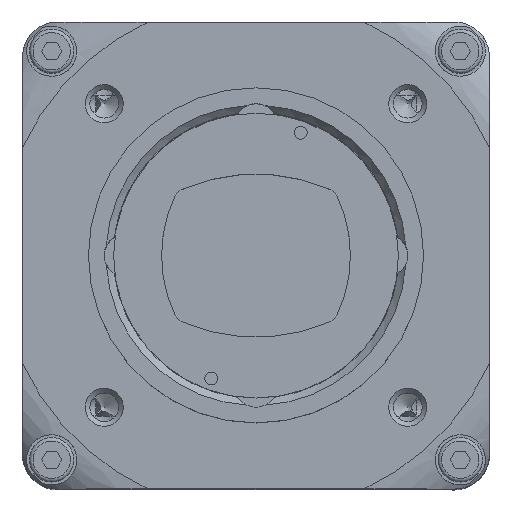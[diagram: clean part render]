
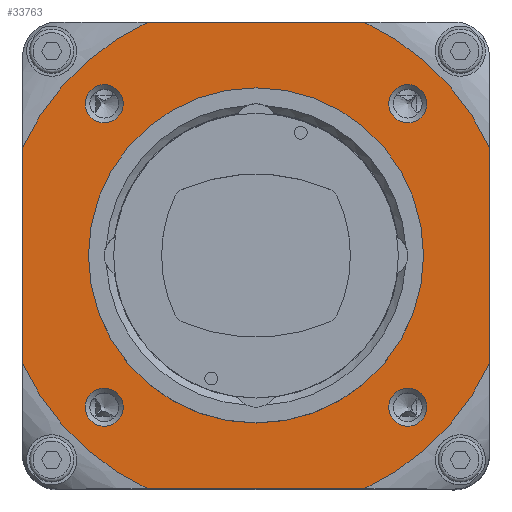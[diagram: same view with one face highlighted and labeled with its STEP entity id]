
A CAD part, top view. The second image highlights one B-rep face of the part: STEP entity #33763.
In plain terms, the highlighted planar face has unit normal (0, 0, 1).
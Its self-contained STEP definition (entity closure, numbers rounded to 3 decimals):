
#895=LINE('',#46804,#2441);
#899=LINE('',#46829,#2445);
#903=LINE('',#46854,#2449);
#907=LINE('',#46879,#2453);
#2441=VECTOR('',#39475,1000.);
#2445=VECTOR('',#39485,1000.);
#2449=VECTOR('',#39495,1000.);
#2453=VECTOR('',#39505,1000.);
#5727=ORIENTED_EDGE('',*,*,#11518,.T.);
#5728=ORIENTED_EDGE('',*,*,#11519,.T.);
#5729=ORIENTED_EDGE('',*,*,#11520,.T.);
#5730=ORIENTED_EDGE('',*,*,#11521,.T.);
#5731=ORIENTED_EDGE('',*,*,#11425,.T.);
#5732=ORIENTED_EDGE('',*,*,#11452,.F.);
#5733=ORIENTED_EDGE('',*,*,#11522,.T.);
#5734=ORIENTED_EDGE('',*,*,#11444,.F.);
#5735=ORIENTED_EDGE('',*,*,#11523,.T.);
#5736=ORIENTED_EDGE('',*,*,#11436,.F.);
#5737=ORIENTED_EDGE('',*,*,#11524,.T.);
#5738=ORIENTED_EDGE('',*,*,#11428,.F.);
#5739=ORIENTED_EDGE('',*,*,#11525,.T.);
#11425=EDGE_CURVE('',#14519,#14519,#16670,.T.);
#11428=EDGE_CURVE('',#14522,#14523,#895,.T.);
#11436=EDGE_CURVE('',#14530,#14531,#899,.T.);
#11444=EDGE_CURVE('',#14538,#14539,#903,.T.);
#11452=EDGE_CURVE('',#14546,#14547,#907,.T.);
#11518=EDGE_CURVE('',#14596,#14596,#16719,.T.);
#11519=EDGE_CURVE('',#14597,#14597,#16720,.T.);
#11520=EDGE_CURVE('',#14598,#14598,#16721,.T.);
#11521=EDGE_CURVE('',#14599,#14599,#16722,.T.);
#11522=EDGE_CURVE('',#14546,#14539,#16723,.T.);
#11523=EDGE_CURVE('',#14538,#14531,#16724,.T.);
#11524=EDGE_CURVE('',#14530,#14523,#16725,.T.);
#11525=EDGE_CURVE('',#14522,#14547,#16726,.T.);
#14519=VERTEX_POINT('',#46798);
#14522=VERTEX_POINT('',#46805);
#14523=VERTEX_POINT('',#46806);
#14530=VERTEX_POINT('',#46830);
#14531=VERTEX_POINT('',#46831);
#14538=VERTEX_POINT('',#46855);
#14539=VERTEX_POINT('',#46856);
#14546=VERTEX_POINT('',#46880);
#14547=VERTEX_POINT('',#46881);
#14596=VERTEX_POINT('',#47088);
#14597=VERTEX_POINT('',#47090);
#14598=VERTEX_POINT('',#47092);
#14599=VERTEX_POINT('',#47094);
#16670=CIRCLE('',#35637,14.35);
#16719=CIRCLE('',#35718,1.63);
#16720=CIRCLE('',#35719,1.63);
#16721=CIRCLE('',#35720,1.63);
#16722=CIRCLE('',#35721,1.63);
#16723=CIRCLE('',#35722,22.031);
#16724=CIRCLE('',#35723,22.031);
#16725=CIRCLE('',#35724,22.031);
#16726=CIRCLE('',#35725,22.031);
#18288=EDGE_LOOP('',(#5727));
#18289=EDGE_LOOP('',(#5728));
#18290=EDGE_LOOP('',(#5729));
#18291=EDGE_LOOP('',(#5730));
#18292=EDGE_LOOP('',(#5731));
#18293=EDGE_LOOP('',(#5732,#5733,#5734,#5735,#5736,#5737,#5738,#5739));
#20470=FACE_BOUND('',#18288,.T.);
#20471=FACE_BOUND('',#18289,.T.);
#20472=FACE_BOUND('',#18290,.T.);
#20473=FACE_BOUND('',#18291,.T.);
#20474=FACE_BOUND('',#18292,.T.);
#20475=FACE_BOUND('',#18293,.T.);
#22178=PLANE('',#35717);
#33763=ADVANCED_FACE('',(#20470,#20471,#20472,#20473,#20474,#20475),#22178,
 .F.);
#35637=AXIS2_PLACEMENT_3D('',#46797,#39467,#39468);
#35717=AXIS2_PLACEMENT_3D('',#47086,#39647,#39648);
#35718=AXIS2_PLACEMENT_3D('',#47087,#39649,#39650);
#35719=AXIS2_PLACEMENT_3D('',#47089,#39651,#39652);
#35720=AXIS2_PLACEMENT_3D('',#47091,#39653,#39654);
#35721=AXIS2_PLACEMENT_3D('',#47093,#39655,#39656);
#35722=AXIS2_PLACEMENT_3D('',#47095,#39657,#39658);
#35723=AXIS2_PLACEMENT_3D('',#47096,#39659,#39660);
#35724=AXIS2_PLACEMENT_3D('',#47097,#39661,#39662);
#35725=AXIS2_PLACEMENT_3D('',#47098,#39663,#39664);
#39467=DIRECTION('',(0.,0.,-1.));
#39468=DIRECTION('',(1.,0.,0.));
#39475=DIRECTION('',(0.,-1.,0.));
#39485=DIRECTION('',(-1.,0.,0.));
#39495=DIRECTION('',(0.,1.,0.));
#39505=DIRECTION('',(1.,0.,0.));
#39647=DIRECTION('',(0.,0.,-1.));
#39648=DIRECTION('',(-1.,0.,0.));
#39649=DIRECTION('',(0.,0.,-1.));
#39650=DIRECTION('',(-1.,0.,0.));
#39651=DIRECTION('',(0.,0.,-1.));
#39652=DIRECTION('',(-1.,0.,0.));
#39653=DIRECTION('',(0.,0.,-1.));
#39654=DIRECTION('',(-1.,0.,0.));
#39655=DIRECTION('',(0.,0.,-1.));
#39656=DIRECTION('',(-1.,0.,0.));
#39657=DIRECTION('',(0.,0.,1.));
#39658=DIRECTION('',(1.,0.,0.));
#39659=DIRECTION('',(0.,0.,1.));
#39660=DIRECTION('',(1.,0.,0.));
#39661=DIRECTION('',(0.,0.,1.));
#39662=DIRECTION('',(1.,0.,0.));
#39663=DIRECTION('',(0.,0.,1.));
#39664=DIRECTION('',(1.,0.,0.));
#46797=CARTESIAN_POINT('',(0.,0.,12.3));
#46798=CARTESIAN_POINT('',(14.35,0.,12.3));
#46804=CARTESIAN_POINT('',(20.,20.,12.3));
#46805=CARTESIAN_POINT('',(20.,9.238,12.3));
#46806=CARTESIAN_POINT('',(20.,-9.238,12.3));
#46829=CARTESIAN_POINT('',(20.,-20.,12.3));
#46830=CARTESIAN_POINT('',(9.238,-20.,12.3));
#46831=CARTESIAN_POINT('',(-9.238,-20.,12.3));
#46854=CARTESIAN_POINT('',(-20.,-20.,12.3));
#46855=CARTESIAN_POINT('',(-20.,-9.238,12.3));
#46856=CARTESIAN_POINT('',(-20.,9.238,12.3));
#46879=CARTESIAN_POINT('',(-20.,20.,12.3));
#46880=CARTESIAN_POINT('',(-9.238,20.,12.3));
#46881=CARTESIAN_POINT('',(9.238,20.,12.3));
#47086=CARTESIAN_POINT('',(0.,0.,12.3));
#47087=CARTESIAN_POINT('',(13.,-13.,12.3));
#47088=CARTESIAN_POINT('',(11.371,-13.,12.3));
#47089=CARTESIAN_POINT('',(-13.,-13.,12.3));
#47090=CARTESIAN_POINT('',(-14.63,-13.,12.3));
#47091=CARTESIAN_POINT('',(-13.,13.,12.3));
#47092=CARTESIAN_POINT('',(-14.63,13.,12.3));
#47093=CARTESIAN_POINT('',(13.,13.,12.3));
#47094=CARTESIAN_POINT('',(11.371,13.,12.3));
#47095=CARTESIAN_POINT('',(0.,0.,12.3));
#47096=CARTESIAN_POINT('',(0.,0.,12.3));
#47097=CARTESIAN_POINT('',(0.,0.,12.3));
#47098=CARTESIAN_POINT('',(0.,0.,12.3));
